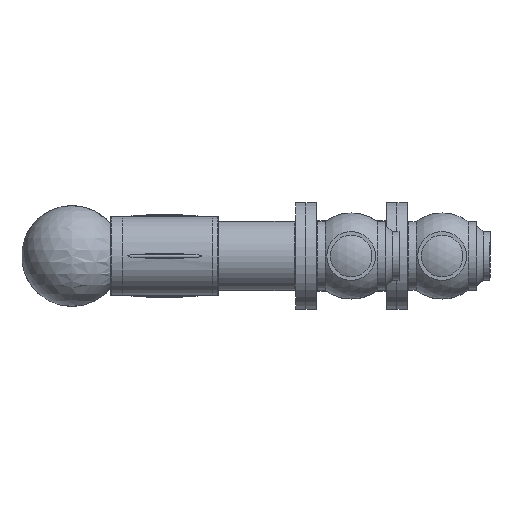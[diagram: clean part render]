
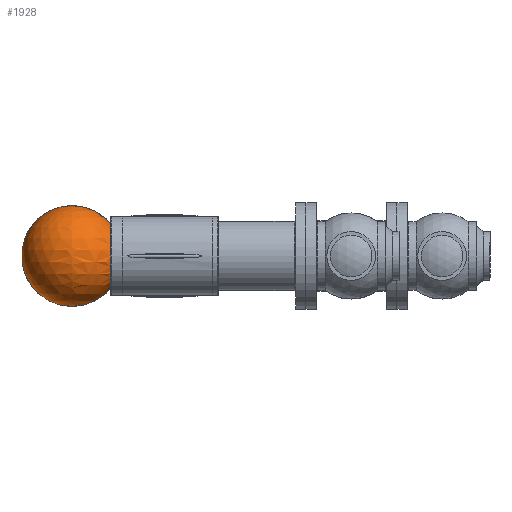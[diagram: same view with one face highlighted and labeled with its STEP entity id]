
A CAD part, left-side view. The second image highlights one B-rep face of the part: STEP entity #1928.
In plain terms, the highlighted spherical face has radius 72.5 mm.
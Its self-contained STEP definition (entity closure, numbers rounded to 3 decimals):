
#123=SPHERICAL_SURFACE('',#2252,72.5);
#358=FACE_BOUND('',#541,.T.);
#419=FACE_OUTER_BOUND('',#540,.T.);
#540=EDGE_LOOP('',(#1515,#1516));
#541=EDGE_LOOP('',(#1517));
#697=CIRCLE('',#2253,72.5);
#698=CIRCLE('',#2254,46.648);
#912=VERTEX_POINT('',#3744);
#913=VERTEX_POINT('',#3745);
#914=VERTEX_POINT('',#3747);
#1141=EDGE_CURVE('',#912,#913,#697,.T.);
#1142=EDGE_CURVE('',#914,#914,#698,.T.);
#1515=ORIENTED_EDGE('',*,*,#1141,.T.);
#1516=ORIENTED_EDGE('',*,*,#1141,.F.);
#1517=ORIENTED_EDGE('',*,*,#1142,.F.);
#1928=ADVANCED_FACE('',(#419,#358),#123,.T.);
#2252=AXIS2_PLACEMENT_3D('',#3743,#2710,#2711);
#2253=AXIS2_PLACEMENT_3D('',#3746,#2712,#2713);
#2254=AXIS2_PLACEMENT_3D('',#3748,#2714,#2715);
#2710=DIRECTION('center_axis',(0.,0.,1.));
#2711=DIRECTION('ref_axis',(1.,0.,0.));
#2712=DIRECTION('center_axis',(0.,-1.,0.));
#2713=DIRECTION('ref_axis',(-1.,0.,0.));
#2714=DIRECTION('center_axis',(0.,-1.,0.));
#2715=DIRECTION('ref_axis',(1.,0.,0.));
#3743=CARTESIAN_POINT('Origin',(150.,266.5,0.));
#3744=CARTESIAN_POINT('',(150.,266.5,72.5));
#3745=CARTESIAN_POINT('',(150.,266.5,-72.5));
#3746=CARTESIAN_POINT('Origin',(150.,266.5,0.));
#3747=CARTESIAN_POINT('',(196.648,211.,0.));
#3748=CARTESIAN_POINT('Origin',(150.,211.,0.));
